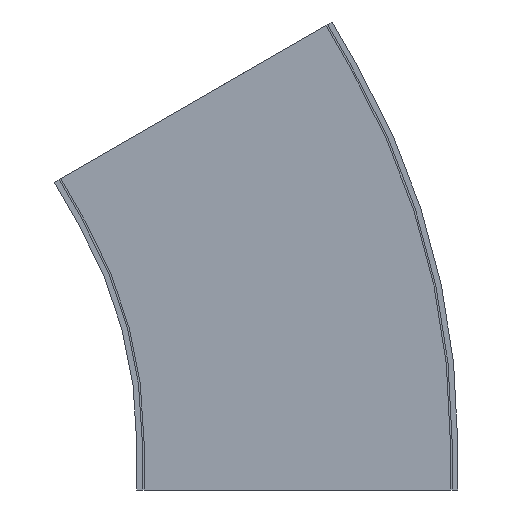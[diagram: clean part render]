
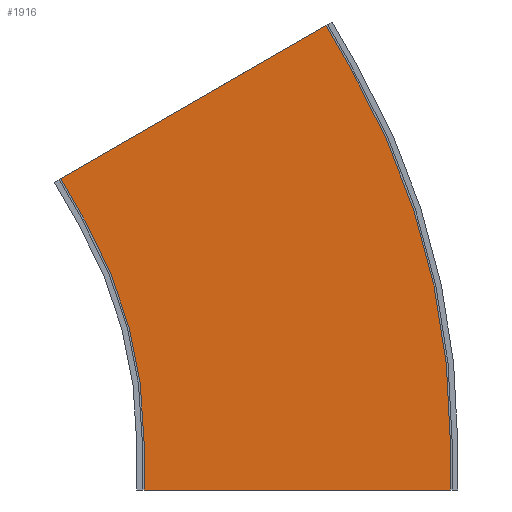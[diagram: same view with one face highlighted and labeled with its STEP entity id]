
A CAD part, front view. The second image highlights one B-rep face of the part: STEP entity #1916.
In plain terms, the highlighted planar face has unit normal (0, -1, 0).
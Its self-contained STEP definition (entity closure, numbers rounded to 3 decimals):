
#66 = DIRECTION ( 'NONE',  ( 0.5, 0., -0.866 ) ) ;
#80 = CARTESIAN_POINT ( 'NONE',  ( 411.275, -68.25, 237.45 ) ) ;
#101 = DIRECTION ( 'NONE',  ( 0., 1., 0. ) ) ;
#129 = ORIENTED_EDGE ( 'NONE', *, *, #1516, .T. ) ;
#130 = EDGE_CURVE ( 'NONE', #1995, #1717, #816, .T. ) ;
#169 = CIRCLE ( 'NONE', #1212, 474.9 ) ;
#237 = EDGE_CURVE ( 'NONE', #1569, #1995, #938, .T. ) ;
#289 = VERTEX_POINT ( 'NONE', #1764 ) ;
#358 = CARTESIAN_POINT ( 'NONE',  ( 0., -68.25, 0. ) ) ;
#370 = ORIENTED_EDGE ( 'NONE', *, *, #2309, .T. ) ;
#445 = DIRECTION ( 'NONE',  ( 0., 0., 1. ) ) ;
#550 = DIRECTION ( 'NONE',  ( -1., 0., 0. ) ) ;
#561 = LINE ( 'NONE', #1264, #947 ) ;
#601 = VECTOR ( 'NONE', #1233, 1000. ) ;
#633 = CARTESIAN_POINT ( 'NONE',  ( 805.1, -68.25, -52.5 ) ) ;
#693 = VERTEX_POINT ( 'NONE', #1062 ) ;
#793 = CARTESIAN_POINT ( 'NONE',  ( 474.9, -68.25, -52.5 ) ) ;
#816 = CIRCLE ( 'NONE', #1628, 805.1 ) ;
#843 = CARTESIAN_POINT ( 'NONE',  ( 670.987, -68.25, 448.016 ) ) ;
#938 = LINE ( 'NONE', #843, #1102 ) ;
#947 = VECTOR ( 'NONE', #1622, 1000. ) ;
#1019 = VERTEX_POINT ( 'NONE', #1912 ) ;
#1037 = CARTESIAN_POINT ( 'NONE',  ( 0., -68.25, -52.5 ) ) ;
#1062 = CARTESIAN_POINT ( 'NONE',  ( 474.9, -68.25, 0. ) ) ;
#1076 = PLANE ( 'NONE',  #2470 ) ;
#1102 = VECTOR ( 'NONE', #66, 1000. ) ;
#1212 = AXIS2_PLACEMENT_3D ( 'NONE', #358, #1686, #550 ) ;
#1233 = DIRECTION ( 'NONE',  ( -1., 0., 0. ) ) ;
#1236 = VERTEX_POINT ( 'NONE', #1591 ) ;
#1255 = DIRECTION ( 'NONE',  ( 0., 1., 0. ) ) ;
#1264 = CARTESIAN_POINT ( 'NONE',  ( 385.025, -68.25, 282.916 ) ) ;
#1364 = CARTESIAN_POINT ( 'NONE',  ( 805.1, -68.25, 0. ) ) ;
#1366 = EDGE_CURVE ( 'NONE', #1019, #289, #1994, .T. ) ;
#1375 = VERTEX_POINT ( 'NONE', #1425 ) ;
#1425 = CARTESIAN_POINT ( 'NONE',  ( 385.025, -68.25, 282.916 ) ) ;
#1438 = DIRECTION ( 'NONE',  ( -1., 0., 0. ) ) ;
#1453 = DIRECTION ( 'NONE',  ( 0.866, 0., 0.5 ) ) ;
#1465 = ORIENTED_EDGE ( 'NONE', *, *, #1874, .T. ) ;
#1487 = CARTESIAN_POINT ( 'NONE',  ( 670.987, -68.25, 448.016 ) ) ;
#1516 = EDGE_CURVE ( 'NONE', #1236, #693, #169, .T. ) ;
#1566 = DIRECTION ( 'NONE',  ( 0., 0., 1. ) ) ;
#1569 = VERTEX_POINT ( 'NONE', #1487 ) ;
#1591 = CARTESIAN_POINT ( 'NONE',  ( 411.275, -68.25, 237.45 ) ) ;
#1609 = LINE ( 'NONE', #633, #2235 ) ;
#1622 = DIRECTION ( 'NONE',  ( 0.5, 0., -0.866 ) ) ;
#1628 = AXIS2_PLACEMENT_3D ( 'NONE', #2008, #101, #2203 ) ;
#1667 = VECTOR ( 'NONE', #1453, 1000. ) ;
#1672 = LINE ( 'NONE', #793, #2104 ) ;
#1686 = DIRECTION ( 'NONE',  ( 0., 1., 0. ) ) ;
#1691 = ORIENTED_EDGE ( 'NONE', *, *, #130, .F. ) ;
#1717 = VERTEX_POINT ( 'NONE', #1364 ) ;
#1749 = ORIENTED_EDGE ( 'NONE', *, *, #237, .F. ) ;
#1764 = CARTESIAN_POINT ( 'NONE',  ( 474.9, -68.25, -52.5 ) ) ;
#1782 = FACE_OUTER_BOUND ( 'NONE', #1940, .T. ) ;
#1803 = CARTESIAN_POINT ( 'NONE',  ( 697.237, -68.25, 402.55 ) ) ;
#1830 = CARTESIAN_POINT ( 'NONE',  ( -26.25, -68.25, 45.466 ) ) ;
#1874 = EDGE_CURVE ( 'NONE', #1019, #1717, #1609, .T. ) ;
#1889 = EDGE_CURVE ( 'NONE', #289, #693, #1672, .T. ) ;
#1912 = CARTESIAN_POINT ( 'NONE',  ( 805.1, -68.25, -52.5 ) ) ;
#1916 = ADVANCED_FACE ( 'NONE', ( #1782 ), #1076, .F. ) ;
#1940 = EDGE_LOOP ( 'NONE', ( #129, #2434, #2042, #1465, #1691, #1749, #2262, #370 ) ) ;
#1994 = LINE ( 'NONE', #1037, #601 ) ;
#1995 = VERTEX_POINT ( 'NONE', #1803 ) ;
#2008 = CARTESIAN_POINT ( 'NONE',  ( 0., -68.25, 0. ) ) ;
#2042 = ORIENTED_EDGE ( 'NONE', *, *, #1366, .F. ) ;
#2104 = VECTOR ( 'NONE', #445, 1000. ) ;
#2203 = DIRECTION ( 'NONE',  ( -1., 0., 0. ) ) ;
#2235 = VECTOR ( 'NONE', #1566, 1000. ) ;
#2262 = ORIENTED_EDGE ( 'NONE', *, *, #2394, .F. ) ;
#2309 = EDGE_CURVE ( 'NONE', #1375, #1236, #561, .T. ) ;
#2317 = LINE ( 'NONE', #1830, #1667 ) ;
#2394 = EDGE_CURVE ( 'NONE', #1375, #1569, #2317, .T. ) ;
#2434 = ORIENTED_EDGE ( 'NONE', *, *, #1889, .F. ) ;
#2470 = AXIS2_PLACEMENT_3D ( 'NONE', #80, #1255, #1438 ) ;
